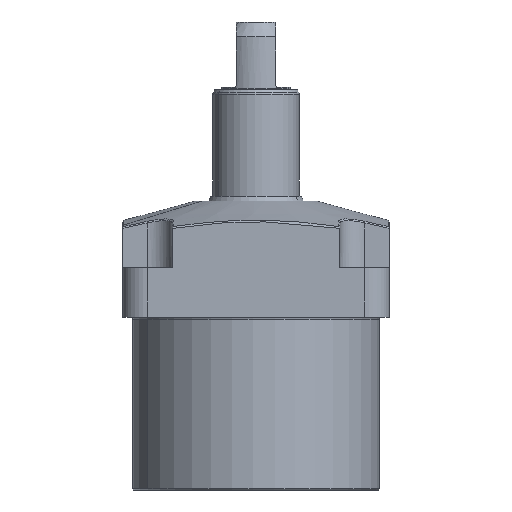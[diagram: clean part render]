
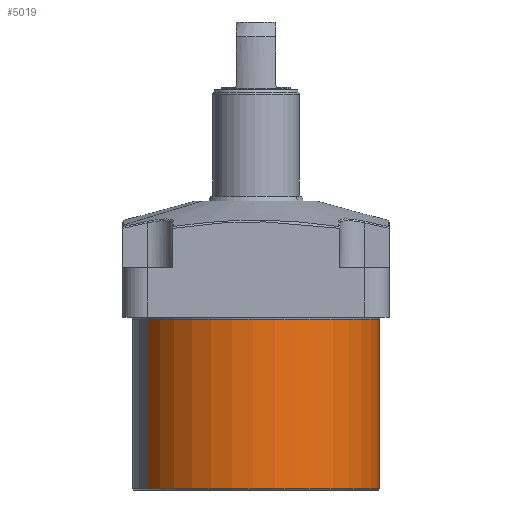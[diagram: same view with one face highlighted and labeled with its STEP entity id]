
A CAD part, left-side view. The second image highlights one B-rep face of the part: STEP entity #5019.
In plain terms, the highlighted cylindrical face has radius 50 mm (diameter 100 mm), a partial arc.
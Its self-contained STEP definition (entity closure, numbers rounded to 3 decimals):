
#4950=CARTESIAN_POINT('Vertex',(-23.971,43.879,69.2)) ;
#4953=CARTESIAN_POINT('Axis2P3D Location',(0.,0.,69.2)) ;
#4957=CARTESIAN_POINT('Vertex',(23.971,-43.879,69.2)) ;
#4989=CARTESIAN_POINT('Axis2P3D Location',(0.,0.,58.5)) ;
#4994=CARTESIAN_POINT('Line Origine',(-23.971,43.879,35.)) ;
#4998=CARTESIAN_POINT('Vertex',(-23.971,43.879,0.5)) ;
#5001=CARTESIAN_POINT('Axis2P3D Location',(0.,0.,0.5)) ;
#5005=CARTESIAN_POINT('Vertex',(23.971,-43.879,0.5)) ;
#5008=CARTESIAN_POINT('Line Origine',(23.971,-43.879,35.)) ;
#4954=DIRECTION('Axis2P3D Direction',(0.,0.,1.)) ;
#4990=DIRECTION('Axis2P3D Direction',(0.,0.,1.)) ;
#4991=DIRECTION('Axis2P3D XDirection',(-0.479,0.878,0.)) ;
#4995=DIRECTION('Vector Direction',(0.,0.,1.)) ;
#5002=DIRECTION('Axis2P3D Direction',(0.,0.,1.)) ;
#5009=DIRECTION('Vector Direction',(0.,0.,1.)) ;
#4955=AXIS2_PLACEMENT_3D('Circle Axis2P3D',#4953,#4954,$) ;
#4992=AXIS2_PLACEMENT_3D('Cylinder Axis2P3D',#4989,#4990,#4991) ;
#5003=AXIS2_PLACEMENT_3D('Circle Axis2P3D',#5001,#5002,$) ;
#5014=ORIENTED_EDGE('',*,*,#5000,.F.) ;
#5015=ORIENTED_EDGE('',*,*,#5007,.T.) ;
#5016=ORIENTED_EDGE('',*,*,#5012,.T.) ;
#5017=ORIENTED_EDGE('',*,*,#4959,.T.) ;
#4996=VECTOR('Line Direction',#4995,1.) ;
#5010=VECTOR('Line Direction',#5009,1.) ;
#5019=ADVANCED_FACE('',(#5018),#4993,.T.) ;
#4956=CIRCLE('generated circle',#4955,50.) ;
#5004=CIRCLE('generated circle',#5003,50.) ;
#4993=CYLINDRICAL_SURFACE('generated cylinder',#4992,50.) ;
#4959=EDGE_CURVE('',#4958,#4951,#4956,.F.) ;
#5000=EDGE_CURVE('',#4999,#4951,#4997,.T.) ;
#5007=EDGE_CURVE('',#4999,#5006,#5004,.T.) ;
#5012=EDGE_CURVE('',#5006,#4958,#5011,.T.) ;
#5013=EDGE_LOOP('',(#5014,#5015,#5016,#5017)) ;
#5018=FACE_OUTER_BOUND('',#5013,.T.) ;
#4997=LINE('Line',#4994,#4996) ;
#5011=LINE('Line',#5008,#5010) ;
#4951=VERTEX_POINT('',#4950) ;
#4958=VERTEX_POINT('',#4957) ;
#4999=VERTEX_POINT('',#4998) ;
#5006=VERTEX_POINT('',#5005) ;
